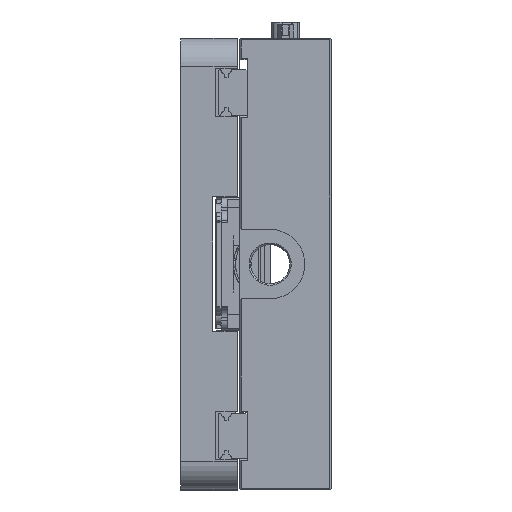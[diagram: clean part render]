
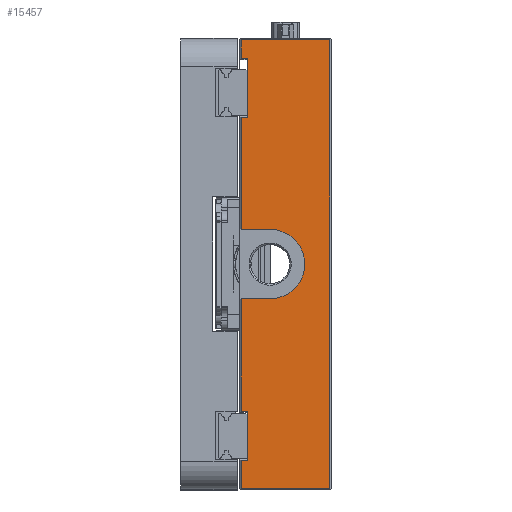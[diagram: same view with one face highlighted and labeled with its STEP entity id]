
A CAD part, left-side view. The second image highlights one B-rep face of the part: STEP entity #15457.
In plain terms, the highlighted planar face has unit normal (1, 0, 0).
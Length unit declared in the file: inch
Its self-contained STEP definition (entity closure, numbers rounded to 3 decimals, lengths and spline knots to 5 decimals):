
#213 = LINE ( 'NONE', #15128, #10534 ) ;
#514 = ORIENTED_EDGE ( 'NONE', *, *, #22047, .T. ) ;
#609 = LINE ( 'NONE', #15520, #47510 ) ;
#633 = EDGE_CURVE ( 'NONE', #1298, #39599, #24387, .T. ) ;
#950 = VERTEX_POINT ( 'NONE', #10131 ) ;
#970 = EDGE_CURVE ( 'NONE', #15685, #20239, #25047, .T. ) ;
#1150 = CARTESIAN_POINT ( 'NONE',  ( -11.7, 1.18, -1.92159 ) ) ;
#1180 = ORIENTED_EDGE ( 'NONE', *, *, #633, .T. ) ;
#1194 = ORIENTED_EDGE ( 'NONE', *, *, #970, .T. ) ;
#1298 = VERTEX_POINT ( 'NONE', #36874 ) ;
#1363 = CARTESIAN_POINT ( 'NONE',  ( -11.7, 0.02, -2.95276 ) ) ;
#1763 = AXIS2_PLACEMENT_3D ( 'NONE', #8712, #23639, #38498 ) ;
#2407 = EDGE_CURVE ( 'NONE', #15384, #15685, #36144, .T. ) ;
#2678 = CARTESIAN_POINT ( 'NONE',  ( -11.7, 1.18, -2.95276 ) ) ;
#3265 = LINE ( 'NONE', #18179, #14589 ) ;
#3808 = ORIENTED_EDGE ( 'NONE', *, *, #14057, .T. ) ;
#3813 = EDGE_CURVE ( 'NONE', #20239, #18448, #13143, .T. ) ;
#4140 = ORIENTED_EDGE ( 'NONE', *, *, #3813, .T. ) ;
#5647 = DIRECTION ( 'NONE',  ( 0., 0., 1. ) ) ;
#5801 = DIRECTION ( 'NONE',  ( 0., -1., 0. ) ) ;
#5850 = CARTESIAN_POINT ( 'NONE',  ( -11.7, 1.1, -2.56659 ) ) ;
#5976 = LINE ( 'NONE', #20885, #14473 ) ;
#5983 = VECTOR ( 'NONE', #38575, 39.37008 ) ;
#6043 = VECTOR ( 'NONE', #7275, 39.37008 ) ;
#6306 = VERTEX_POINT ( 'NONE', #35841 ) ;
#6473 = DIRECTION ( 'NONE',  ( 0., -1., 0. ) ) ;
#6871 = EDGE_CURVE ( 'NONE', #11535, #12490, #213, .T. ) ;
#6981 = VERTEX_POINT ( 'NONE', #19977 ) ;
#7275 = DIRECTION ( 'NONE',  ( 0., 0., 1. ) ) ;
#7423 = EDGE_CURVE ( 'NONE', #38464, #950, #5976, .T. ) ;
#7649 = VECTOR ( 'NONE', #17587, 39.37008 ) ;
#8020 = VECTOR ( 'NONE', #6473, 39.37008 ) ;
#8712 = CARTESIAN_POINT ( 'NONE',  ( -11.7, 1.2, -2.95276 ) ) ;
#8790 = LINE ( 'NONE', #23713, #5983 ) ;
#9234 = VERTEX_POINT ( 'NONE', #47466 ) ;
#10131 = CARTESIAN_POINT ( 'NONE',  ( -11.7, 1.18, -2.93276 ) ) ;
#10534 = VECTOR ( 'NONE', #30040, 39.37008 ) ;
#11000 = EDGE_CURVE ( 'NONE', #9234, #19316, #46382, .T. ) ;
#11041 = ORIENTED_EDGE ( 'NONE', *, *, #23250, .T. ) ;
#11152 = CARTESIAN_POINT ( 'NONE',  ( -11.7, 1.18, -2.56659 ) ) ;
#11231 = LINE ( 'NONE', #26139, #33319 ) ;
#11535 = VERTEX_POINT ( 'NONE', #11152 ) ;
#12490 = VERTEX_POINT ( 'NONE', #5850 ) ;
#13059 = CARTESIAN_POINT ( 'NONE',  ( -11.7, 1.2, 2.93276 ) ) ;
#13143 = CIRCLE ( 'NONE', #29504, 0.45276 ) ;
#13414 = CARTESIAN_POINT ( 'NONE',  ( -11.7, 1.2, 2.68937 ) ) ;
#13421 = VERTEX_POINT ( 'NONE', #38093 ) ;
#13458 = EDGE_CURVE ( 'NONE', #950, #11535, #8790, .T. ) ;
#14057 = EDGE_CURVE ( 'NONE', #12490, #13421, #24228, .T. ) ;
#14473 = VECTOR ( 'NONE', #35791, 39.37008 ) ;
#14507 = LINE ( 'NONE', #29408, #30811 ) ;
#14589 = VECTOR ( 'NONE', #33121, 39.37008 ) ;
#15128 = CARTESIAN_POINT ( 'NONE',  ( -11.7, 1.2, -2.56659 ) ) ;
#15187 = CARTESIAN_POINT ( 'NONE',  ( -11.7, 0.8, 0. ) ) ;
#15384 = VERTEX_POINT ( 'NONE', #1150 ) ;
#15457 = ADVANCED_FACE ( 'NONE', ( #27291 ), #42098, .T. ) ;
#15520 = CARTESIAN_POINT ( 'NONE',  ( -11.7, 1.2, 0.45276 ) ) ;
#15685 = VERTEX_POINT ( 'NONE', #33874 ) ;
#16284 = DIRECTION ( 'NONE',  ( 0., 0., 1. ) ) ;
#17587 = DIRECTION ( 'NONE',  ( 0., 0., 1. ) ) ;
#17819 = ORIENTED_EDGE ( 'NONE', *, *, #11000, .T. ) ;
#18092 = ORIENTED_EDGE ( 'NONE', *, *, #44657, .T. ) ;
#18179 = CARTESIAN_POINT ( 'NONE',  ( -11.7, 1.2, -1.92159 ) ) ;
#18207 = ORIENTED_EDGE ( 'NONE', *, *, #2407, .T. ) ;
#18448 = VERTEX_POINT ( 'NONE', #29004 ) ;
#19316 = VERTEX_POINT ( 'NONE', #37518 ) ;
#19977 = CARTESIAN_POINT ( 'NONE',  ( -11.7, 1.18, 2.68937 ) ) ;
#20239 = VERTEX_POINT ( 'NONE', #27523 ) ;
#20529 = CARTESIAN_POINT ( 'NONE',  ( -11.7, 0.02, -2.93276 ) ) ;
#20612 = EDGE_CURVE ( 'NONE', #39599, #6306, #14507, .T. ) ;
#20885 = CARTESIAN_POINT ( 'NONE',  ( -11.7, 1.2, -2.93276 ) ) ;
#20897 = ORIENTED_EDGE ( 'NONE', *, *, #20612, .T. ) ;
#22047 = EDGE_CURVE ( 'NONE', #6981, #9234, #11231, .T. ) ;
#22101 = CARTESIAN_POINT ( 'NONE',  ( -11.7, 1.18, 0.45276 ) ) ;
#22409 = EDGE_CURVE ( 'NONE', #38464, #19316, #34853, .T. ) ;
#23250 = EDGE_CURVE ( 'NONE', #25675, #1298, #25844, .T. ) ;
#23639 = DIRECTION ( 'NONE',  ( 1., 0., 0. ) ) ;
#23713 = CARTESIAN_POINT ( 'NONE',  ( -11.7, 1.18, -2.95276 ) ) ;
#24196 = EDGE_CURVE ( 'NONE', #18448, #25675, #609, .T. ) ;
#24228 = LINE ( 'NONE', #39075, #47601 ) ;
#24362 = VECTOR ( 'NONE', #27962, 39.37008 ) ;
#24387 = LINE ( 'NONE', #39231, #36592 ) ;
#25047 = LINE ( 'NONE', #39889, #8020 ) ;
#25675 = VERTEX_POINT ( 'NONE', #22101 ) ;
#25844 = LINE ( 'NONE', #40684, #6043 ) ;
#25910 = ORIENTED_EDGE ( 'NONE', *, *, #6871, .T. ) ;
#26139 = CARTESIAN_POINT ( 'NONE',  ( -11.7, 1.18, -2.95276 ) ) ;
#27291 = FACE_OUTER_BOUND ( 'NONE', #36774, .T. ) ;
#27523 = CARTESIAN_POINT ( 'NONE',  ( -11.7, 0.8, -0.45276 ) ) ;
#27962 = DIRECTION ( 'NONE',  ( 0., -1., 0. ) ) ;
#28249 = ORIENTED_EDGE ( 'NONE', *, *, #7423, .T. ) ;
#28314 = DIRECTION ( 'NONE',  ( 0., 1., 0. ) ) ;
#29004 = CARTESIAN_POINT ( 'NONE',  ( -11.7, 0.8, 0.45276 ) ) ;
#29408 = CARTESIAN_POINT ( 'NONE',  ( -11.7, 1.1, -2.95276 ) ) ;
#29504 = AXIS2_PLACEMENT_3D ( 'NONE', #15187, #30097, #44856 ) ;
#30040 = DIRECTION ( 'NONE',  ( 0., -1., 0. ) ) ;
#30097 = DIRECTION ( 'NONE',  ( -1., 0., 0. ) ) ;
#30441 = DIRECTION ( 'NONE',  ( 0., 1., 0. ) ) ;
#30811 = VECTOR ( 'NONE', #44182, 39.37008 ) ;
#31566 = ORIENTED_EDGE ( 'NONE', *, *, #13458, .T. ) ;
#32480 = ORIENTED_EDGE ( 'NONE', *, *, #22409, .F. ) ;
#33121 = DIRECTION ( 'NONE',  ( 0., 1., 0. ) ) ;
#33319 = VECTOR ( 'NONE', #40962, 39.37008 ) ;
#33874 = CARTESIAN_POINT ( 'NONE',  ( -11.7, 1.18, -0.45276 ) ) ;
#34853 = LINE ( 'NONE', #1363, #40271 ) ;
#35791 = DIRECTION ( 'NONE',  ( 0., 1., 0. ) ) ;
#35841 = CARTESIAN_POINT ( 'NONE',  ( -11.7, 1.1, 2.68937 ) ) ;
#36144 = LINE ( 'NONE', #2678, #7649 ) ;
#36222 = CARTESIAN_POINT ( 'NONE',  ( -11.7, 1.1, 1.91937 ) ) ;
#36592 = VECTOR ( 'NONE', #5801, 39.37008 ) ;
#36774 = EDGE_LOOP ( 'NONE', ( #1180, #20897, #37288, #514, #17819, #32480, #28249, #31566, #25910, #3808, #18092, #18207, #1194, #4140, #37283, #11041 ) ) ;
#36874 = CARTESIAN_POINT ( 'NONE',  ( -11.7, 1.18, 1.91937 ) ) ;
#37283 = ORIENTED_EDGE ( 'NONE', *, *, #24196, .T. ) ;
#37288 = ORIENTED_EDGE ( 'NONE', *, *, #48193, .T. ) ;
#37518 = CARTESIAN_POINT ( 'NONE',  ( -11.7, 0.02, 2.93276 ) ) ;
#38093 = CARTESIAN_POINT ( 'NONE',  ( -11.7, 1.1, -1.92159 ) ) ;
#38464 = VERTEX_POINT ( 'NONE', #20529 ) ;
#38498 = DIRECTION ( 'NONE',  ( 0., 0., -1. ) ) ;
#38575 = DIRECTION ( 'NONE',  ( 0., 0., 1. ) ) ;
#39075 = CARTESIAN_POINT ( 'NONE',  ( -11.7, 1.1, -2.95276 ) ) ;
#39231 = CARTESIAN_POINT ( 'NONE',  ( -11.7, 1.2, 1.91937 ) ) ;
#39599 = VERTEX_POINT ( 'NONE', #36222 ) ;
#39889 = CARTESIAN_POINT ( 'NONE',  ( -11.7, 1.2, -0.45276 ) ) ;
#40271 = VECTOR ( 'NONE', #16284, 39.37008 ) ;
#40684 = CARTESIAN_POINT ( 'NONE',  ( -11.7, 1.18, -2.95276 ) ) ;
#40962 = DIRECTION ( 'NONE',  ( 0., 0., 1. ) ) ;
#42098 = PLANE ( 'NONE',  #1763 ) ;
#43754 = VECTOR ( 'NONE', #28314, 39.37008 ) ;
#44182 = DIRECTION ( 'NONE',  ( 0., 0., 1. ) ) ;
#44657 = EDGE_CURVE ( 'NONE', #13421, #15384, #3265, .T. ) ;
#44856 = DIRECTION ( 'NONE',  ( 0., 0., 1. ) ) ;
#46382 = LINE ( 'NONE', #13059, #24362 ) ;
#46734 = LINE ( 'NONE', #13414, #43754 ) ;
#47466 = CARTESIAN_POINT ( 'NONE',  ( -11.7, 1.18, 2.93276 ) ) ;
#47510 = VECTOR ( 'NONE', #30441, 39.37008 ) ;
#47601 = VECTOR ( 'NONE', #5647, 39.37008 ) ;
#48193 = EDGE_CURVE ( 'NONE', #6306, #6981, #46734, .T. ) ;
